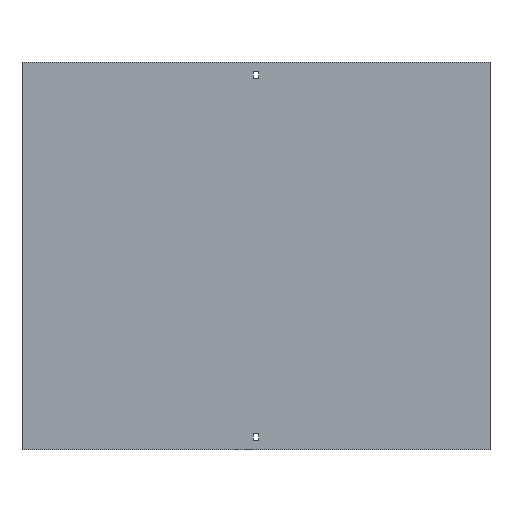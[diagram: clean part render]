
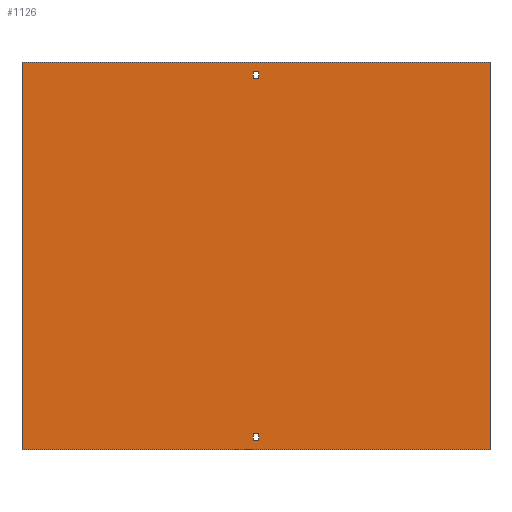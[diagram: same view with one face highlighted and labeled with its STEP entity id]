
A CAD part, front view. The second image highlights one B-rep face of the part: STEP entity #1126.
In plain terms, the highlighted planar face has unit normal (0, -1, 0).
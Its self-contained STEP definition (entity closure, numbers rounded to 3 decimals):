
#61 = EDGE_CURVE ( 'NONE', #1155, #1719, #418, .T. ) ;
#127 = VERTEX_POINT ( 'NONE', #629 ) ;
#194 = ORIENTED_EDGE ( 'NONE', *, *, #2264, .F. ) ;
#214 = CARTESIAN_POINT ( 'NONE',  ( -3.25, 0., -238. ) ) ;
#250 = EDGE_CURVE ( 'NONE', #1934, #384, #1558, .T. ) ;
#259 = VECTOR ( 'NONE', #1288, 1000. ) ;
#274 = DIRECTION ( 'NONE',  ( 0., 0., -1. ) ) ;
#378 = VECTOR ( 'NONE', #274, 1000. ) ;
#384 = VERTEX_POINT ( 'NONE', #1584 ) ;
#396 = EDGE_LOOP ( 'NONE', ( #771, #2549, #1491, #824 ) ) ;
#418 = LINE ( 'NONE', #1301, #1492 ) ;
#545 = CARTESIAN_POINT ( 'NONE',  ( 3.25, 0., 238. ) ) ;
#568 = VECTOR ( 'NONE', #1022, 1000. ) ;
#576 = PLANE ( 'NONE',  #961 ) ;
#629 = CARTESIAN_POINT ( 'NONE',  ( 3.25, 0., 238. ) ) ;
#637 = DIRECTION ( 'NONE',  ( 0., 0., 1. ) ) ;
#686 = CARTESIAN_POINT ( 'NONE',  ( -3.25, 0., 238. ) ) ;
#692 = VECTOR ( 'NONE', #1208, 1000. ) ;
#697 = ORIENTED_EDGE ( 'NONE', *, *, #2690, .T. ) ;
#705 = ORIENTED_EDGE ( 'NONE', *, *, #61, .T. ) ;
#711 = EDGE_CURVE ( 'NONE', #1203, #1715, #1418, .T. ) ;
#729 = EDGE_CURVE ( 'NONE', #1719, #1715, #1401, .T. ) ;
#736 = VECTOR ( 'NONE', #637, 1000. ) ;
#742 = VECTOR ( 'NONE', #2193, 1000. ) ;
#762 = DIRECTION ( 'NONE',  ( 1., 0., 0. ) ) ;
#771 = ORIENTED_EDGE ( 'NONE', *, *, #1336, .F. ) ;
#824 = ORIENTED_EDGE ( 'NONE', *, *, #2059, .F. ) ;
#899 = EDGE_CURVE ( 'NONE', #2068, #2318, #1459, .T. ) ;
#923 = ORIENTED_EDGE ( 'NONE', *, *, #711, .F. ) ;
#938 = EDGE_CURVE ( 'NONE', #2318, #1337, #1708, .T. ) ;
#961 = AXIS2_PLACEMENT_3D ( 'NONE', #1648, #1592, #1427 ) ;
#998 = CARTESIAN_POINT ( 'NONE',  ( -302., 0., -250. ) ) ;
#1011 = VECTOR ( 'NONE', #2169, 1000. ) ;
#1022 = DIRECTION ( 'NONE',  ( -1., 0., 0. ) ) ;
#1026 = EDGE_CURVE ( 'NONE', #127, #1934, #2221, .T. ) ;
#1093 = VECTOR ( 'NONE', #2698, 1000. ) ;
#1124 = EDGE_LOOP ( 'NONE', ( #1180, #1614, #697, #1866 ) ) ;
#1126 = ADVANCED_FACE ( 'NONE', ( #2444, #2486, #2667 ), #576, .F. ) ;
#1148 = CARTESIAN_POINT ( 'NONE',  ( -3.25, 0., -229. ) ) ;
#1155 = VERTEX_POINT ( 'NONE', #2276 ) ;
#1180 = ORIENTED_EDGE ( 'NONE', *, *, #899, .T. ) ;
#1203 = VERTEX_POINT ( 'NONE', #2603 ) ;
#1208 = DIRECTION ( 'NONE',  ( 0., 0., -1. ) ) ;
#1288 = DIRECTION ( 'NONE',  ( 0., 0., -1. ) ) ;
#1301 = CARTESIAN_POINT ( 'NONE',  ( -302., 0., 250. ) ) ;
#1336 = EDGE_CURVE ( 'NONE', #384, #1402, #2409, .T. ) ;
#1337 = VERTEX_POINT ( 'NONE', #2212 ) ;
#1339 = CARTESIAN_POINT ( 'NONE',  ( -3.25, 0., 229. ) ) ;
#1401 = LINE ( 'NONE', #998, #1093 ) ;
#1402 = VERTEX_POINT ( 'NONE', #2632 ) ;
#1418 = LINE ( 'NONE', #2055, #692 ) ;
#1427 = DIRECTION ( 'NONE',  ( -1., 0., 0. ) ) ;
#1459 = LINE ( 'NONE', #214, #736 ) ;
#1471 = CARTESIAN_POINT ( 'NONE',  ( -302., 0., -250. ) ) ;
#1489 = LINE ( 'NONE', #1949, #259 ) ;
#1491 = ORIENTED_EDGE ( 'NONE', *, *, #1026, .F. ) ;
#1492 = VECTOR ( 'NONE', #1507, 1000. ) ;
#1495 = ORIENTED_EDGE ( 'NONE', *, *, #729, .T. ) ;
#1497 = VECTOR ( 'NONE', #2560, 1000. ) ;
#1498 = CARTESIAN_POINT ( 'NONE',  ( -3.25, 0., -229. ) ) ;
#1507 = DIRECTION ( 'NONE',  ( 0., 0., -1. ) ) ;
#1546 = CARTESIAN_POINT ( 'NONE',  ( -3.25, 0., 238. ) ) ;
#1552 = CARTESIAN_POINT ( 'NONE',  ( 3.25, 0., -238. ) ) ;
#1558 = LINE ( 'NONE', #1546, #378 ) ;
#1584 = CARTESIAN_POINT ( 'NONE',  ( -3.25, 0., 229. ) ) ;
#1592 = DIRECTION ( 'NONE',  ( 0., 1., 0. ) ) ;
#1614 = ORIENTED_EDGE ( 'NONE', *, *, #938, .T. ) ;
#1616 = LINE ( 'NONE', #2317, #568 ) ;
#1648 = CARTESIAN_POINT ( 'NONE',  ( -302., 0., 250. ) ) ;
#1708 = LINE ( 'NONE', #1498, #1497 ) ;
#1715 = VERTEX_POINT ( 'NONE', #2694 ) ;
#1719 = VERTEX_POINT ( 'NONE', #1471 ) ;
#1866 = ORIENTED_EDGE ( 'NONE', *, *, #2147, .T. ) ;
#1915 = EDGE_LOOP ( 'NONE', ( #1495, #923, #194, #705 ) ) ;
#1934 = VERTEX_POINT ( 'NONE', #686 ) ;
#1949 = CARTESIAN_POINT ( 'NONE',  ( 3.25, 0., -238. ) ) ;
#2036 = VERTEX_POINT ( 'NONE', #1552 ) ;
#2055 = CARTESIAN_POINT ( 'NONE',  ( 302., 0., 250. ) ) ;
#2059 = EDGE_CURVE ( 'NONE', #1402, #127, #2650, .T. ) ;
#2068 = VERTEX_POINT ( 'NONE', #2230 ) ;
#2083 = VECTOR ( 'NONE', #2360, 1000. ) ;
#2147 = EDGE_CURVE ( 'NONE', #2036, #2068, #1616, .T. ) ;
#2149 = CARTESIAN_POINT ( 'NONE',  ( -302., 0., 250. ) ) ;
#2169 = DIRECTION ( 'NONE',  ( -1., 0., 0. ) ) ;
#2193 = DIRECTION ( 'NONE',  ( 0., 0., 1. ) ) ;
#2195 = CARTESIAN_POINT ( 'NONE',  ( -3.25, 0., 238. ) ) ;
#2212 = CARTESIAN_POINT ( 'NONE',  ( 3.25, 0., -229. ) ) ;
#2221 = LINE ( 'NONE', #2195, #1011 ) ;
#2230 = CARTESIAN_POINT ( 'NONE',  ( -3.25, 0., -238. ) ) ;
#2264 = EDGE_CURVE ( 'NONE', #1155, #1203, #2583, .T. ) ;
#2276 = CARTESIAN_POINT ( 'NONE',  ( -302., 0., 250. ) ) ;
#2317 = CARTESIAN_POINT ( 'NONE',  ( -3.25, 0., -238. ) ) ;
#2318 = VERTEX_POINT ( 'NONE', #1148 ) ;
#2360 = DIRECTION ( 'NONE',  ( 1., 0., 0. ) ) ;
#2409 = LINE ( 'NONE', #1339, #2702 ) ;
#2444 = FACE_OUTER_BOUND ( 'NONE', #1915, .T. ) ;
#2486 = FACE_BOUND ( 'NONE', #396, .T. ) ;
#2549 = ORIENTED_EDGE ( 'NONE', *, *, #250, .F. ) ;
#2560 = DIRECTION ( 'NONE',  ( 1., 0., 0. ) ) ;
#2583 = LINE ( 'NONE', #2149, #2083 ) ;
#2603 = CARTESIAN_POINT ( 'NONE',  ( 302., 0., 250. ) ) ;
#2632 = CARTESIAN_POINT ( 'NONE',  ( 3.25, 0., 229. ) ) ;
#2650 = LINE ( 'NONE', #545, #742 ) ;
#2667 = FACE_BOUND ( 'NONE', #1124, .T. ) ;
#2690 = EDGE_CURVE ( 'NONE', #1337, #2036, #1489, .T. ) ;
#2694 = CARTESIAN_POINT ( 'NONE',  ( 302., 0., -250. ) ) ;
#2698 = DIRECTION ( 'NONE',  ( 1., 0., 0. ) ) ;
#2702 = VECTOR ( 'NONE', #762, 1000. ) ;
